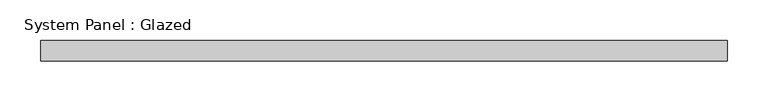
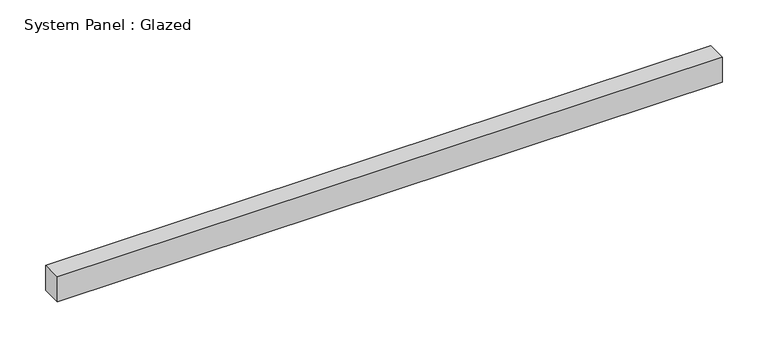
"""IFC4 building model written with IfcOpenShell, lengths in millimetres: plate geometry, System Panel : Glazed."""

from ifc_helpers import new_model, si_unit, origin, origin_with_axes, place, context, project, spatial, polyline, outline, extrude, source, transform, mapped, element, save


def system_panel_glazed_f154e865(model_context):
    return source(origin(), model_context, "Body", "SweptSolid", [
        extrude(outline(polyline([(419.7, 24.5), (-419.7, 24.5), (-419.7, 49.5), (419.7, 49.5), (419.7, 24.5)])), origin_with_axes(), (0.0, 0.0, 1.0), 33.25),
    ])


if __name__ == "__main__":
    model = new_model("IFC4")
    model_context = context("Model", 3, world=origin())
    ifc_project = project(units=[si_unit("LENGTHUNIT", "METRE", prefix="MILLI")], contexts=[model_context])
    site = spatial("IfcSite", under=ifc_project)
    building = spatial("IfcBuilding", under=site)
    placement = place(None, origin())
    system_panel_glazed_shape = system_panel_glazed_f154e865(model_context)
    element("IfcPlate", 1, ObjectType="System Panel : Glazed", at=placement, inside=building, context=model_context, shape_type="MappedRepresentation", body=[
        mapped(system_panel_glazed_shape, transform((0.0, 0.0, 0.0), x_axis=(1.0, 0.0, 0.0), y_axis=(0.0, 1.0, 0.0), z_axis=(0.0, 0.0, 1.0))),
    ])
    save(model, "model.ifc")
